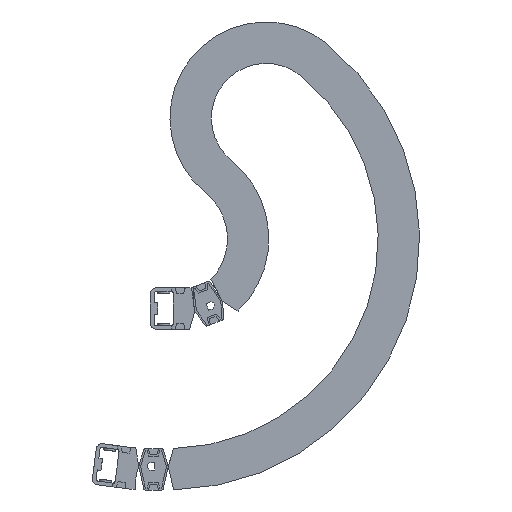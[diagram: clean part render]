
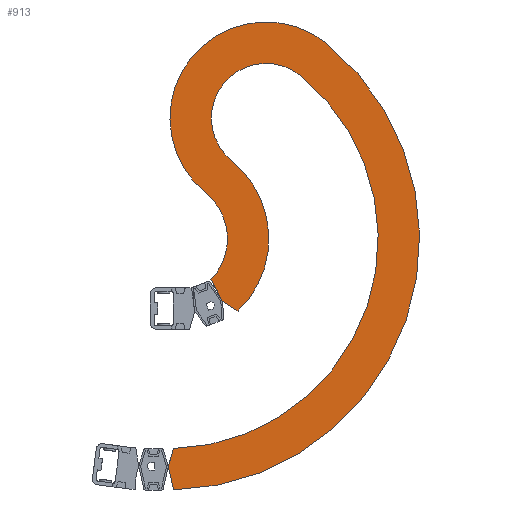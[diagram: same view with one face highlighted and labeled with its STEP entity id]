
A CAD part, front view. The second image highlights one B-rep face of the part: STEP entity #913.
In plain terms, the highlighted planar face has unit normal (0, -1, 0).
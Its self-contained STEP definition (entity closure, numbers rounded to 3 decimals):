
#913 = ADVANCED_FACE( '', ( #1852 ), #1853, .F. );
#1852 = FACE_OUTER_BOUND( '', #2822, .T. );
#1853 = PLANE( '', #2823 );
#2822 = EDGE_LOOP( '', ( #5372, #5373, #5374, #5375, #5376, #5377, #5378, #5379, #5380, #5381 ) );
#2823 = AXIS2_PLACEMENT_3D( '', #5382, #5383, #5384 );
#5372 = ORIENTED_EDGE( '', *, *, #6948, .F. );
#5373 = ORIENTED_EDGE( '', *, *, #7074, .F. );
#5374 = ORIENTED_EDGE( '', *, *, #6465, .F. );
#5375 = ORIENTED_EDGE( '', *, *, #6524, .T. );
#5376 = ORIENTED_EDGE( '', *, *, #6407, .F. );
#5377 = ORIENTED_EDGE( '', *, *, #6316, .F. );
#5378 = ORIENTED_EDGE( '', *, *, #7099, .F. );
#5379 = ORIENTED_EDGE( '', *, *, #6915, .T. );
#5380 = ORIENTED_EDGE( '', *, *, #6745, .T. );
#5381 = ORIENTED_EDGE( '', *, *, #6481, .F. );
#5382 = CARTESIAN_POINT( '', ( 0., -20.5, 0. ) );
#5383 = DIRECTION( '', ( 0., 1., 0. ) );
#5384 = DIRECTION( '', ( 0., 0., 1. ) );
#6316 = EDGE_CURVE( '', #7736, #7738, #7739, .T. );
#6407 = EDGE_CURVE( '', #7738, #7884, #7885, .T. );
#6465 = EDGE_CURVE( '', #7979, #7980, #7981, .T. );
#6481 = EDGE_CURVE( '', #8004, #8006, #8007, .T. );
#6524 = EDGE_CURVE( '', #7979, #7884, #8075, .T. );
#6745 = EDGE_CURVE( '', #8398, #8006, #8399, .T. );
#6915 = EDGE_CURVE( '', #8638, #8398, #8639, .T. );
#6948 = EDGE_CURVE( '', #8683, #8004, #8685, .T. );
#7074 = EDGE_CURVE( '', #7980, #8683, #8834, .T. );
#7099 = EDGE_CURVE( '', #8638, #7736, #8864, .T. );
#7736 = VERTEX_POINT( '', #9725 );
#7738 = VERTEX_POINT( '', #9728 );
#7739 = LINE( '', #9729, #9730 );
#7884 = VERTEX_POINT( '', #9933 );
#7885 = LINE( '', #9934, #9935 );
#7979 = VERTEX_POINT( '', #10062 );
#7980 = VERTEX_POINT( '', #10063 );
#7981 = CIRCLE( '', #10064, 65. );
#8004 = VERTEX_POINT( '', #10096 );
#8006 = VERTEX_POINT( '', #10099 );
#8007 = LINE( '', #10100, #10101 );
#8075 = CIRCLE( '', #10199, 40. );
#8398 = VERTEX_POINT( '', #10664 );
#8399 = CIRCLE( '', #10665, 142. );
#8638 = VERTEX_POINT( '', #11009 );
#8639 = CIRCLE( '', #11010, 37. );
#8683 = VERTEX_POINT( '', #11074 );
#8685 = LINE( '', #11077, #11078 );
#8834 = CIRCLE( '', #11294, 170. );
#8864 = CIRCLE( '', #11339, 68. );
#9725 = CARTESIAN_POINT( '', ( 47.167, -20.5, -48.982 ) );
#9728 = CARTESIAN_POINT( '', ( 36.684, -20.5, -42.311 ) );
#9729 = CARTESIAN_POINT( '', ( 47.167, -20.5, -48.982 ) );
#9730 = VECTOR( '', #11803, 1000. );
#9933 = CARTESIAN_POINT( '', ( 28.827, -20.5, -27.731 ) );
#9934 = CARTESIAN_POINT( '', ( 36.684, -20.5, -42.311 ) );
#9935 = VECTOR( '', #11895, 1000. );
#10062 = CARTESIAN_POINT( '', ( 25.189, -20.5, 31.073 ) );
#10063 = CARTESIAN_POINT( '', ( 107.051, -20.5, 132.061 ) );
#10064 = AXIS2_PLACEMENT_3D( '', #11968, #11969, #11970 );
#10096 = CARTESIAN_POINT( '', ( 0., -20.5, -154. ) );
#10099 = CARTESIAN_POINT( '', ( 3.591, -20.5, -141.955 ) );
#10100 = CARTESIAN_POINT( '', ( 0., -20.5, -154. ) );
#10101 = VECTOR( '', #11987, 1000. );
#10199 = AXIS2_PLACEMENT_3D( '', #12024, #12025, #12026 );
#10664 = CARTESIAN_POINT( '', ( 89.419, -20.5, 110.309 ) );
#10665 = AXIS2_PLACEMENT_3D( '', #12250, #12251, #12252 );
#11009 = CARTESIAN_POINT( '', ( 42.821, -20.5, 52.824 ) );
#11010 = AXIS2_PLACEMENT_3D( '', #12418, #12419, #12420 );
#11074 = CARTESIAN_POINT( '', ( 3.57, -20.5, -169.963 ) );
#11077 = CARTESIAN_POINT( '', ( 3.57, -20.5, -169.963 ) );
#11078 = VECTOR( '', #12457, 1000. );
#11294 = AXIS2_PLACEMENT_3D( '', #12564, #12565, #12566 );
#11339 = AXIS2_PLACEMENT_3D( '', #12582, #12583, #12584 );
#11803 = DIRECTION( '', ( -0.844, 0., 0.537 ) );
#11895 = DIRECTION( '', ( -0.474, 0., 0.88 ) );
#11968 = CARTESIAN_POINT( '', ( 66.12, -20.5, 81.567 ) );
#11969 = DIRECTION( '', ( 0., 1., 0. ) );
#11970 = DIRECTION( '', ( 1., 0., 0. ) );
#11987 = DIRECTION( '', ( 0.286, 0., 0.958 ) );
#12024 = CARTESIAN_POINT( '', ( 0., -20.5, 0. ) );
#12025 = DIRECTION( '', ( 0., 1., 0. ) );
#12026 = DIRECTION( '', ( 1., 0., 0. ) );
#12250 = CARTESIAN_POINT( '', ( 0., -20.5, 0. ) );
#12251 = DIRECTION( '', ( 0., 1., 0. ) );
#12252 = DIRECTION( '', ( 1., 0., 0. ) );
#12418 = CARTESIAN_POINT( '', ( 66.12, -20.5, 81.567 ) );
#12419 = DIRECTION( '', ( 0., 1., 0. ) );
#12420 = DIRECTION( '', ( 1., 0., 0. ) );
#12457 = DIRECTION( '', ( -0.218, 0., 0.976 ) );
#12564 = CARTESIAN_POINT( '', ( 0., -20.5, 0. ) );
#12565 = DIRECTION( '', ( 0., 1., 0. ) );
#12566 = DIRECTION( '', ( 1., 0., 0. ) );
#12582 = CARTESIAN_POINT( '', ( 0., -20.5, 0. ) );
#12583 = DIRECTION( '', ( 0., 1., 0. ) );
#12584 = DIRECTION( '', ( 1., 0., 0. ) );
